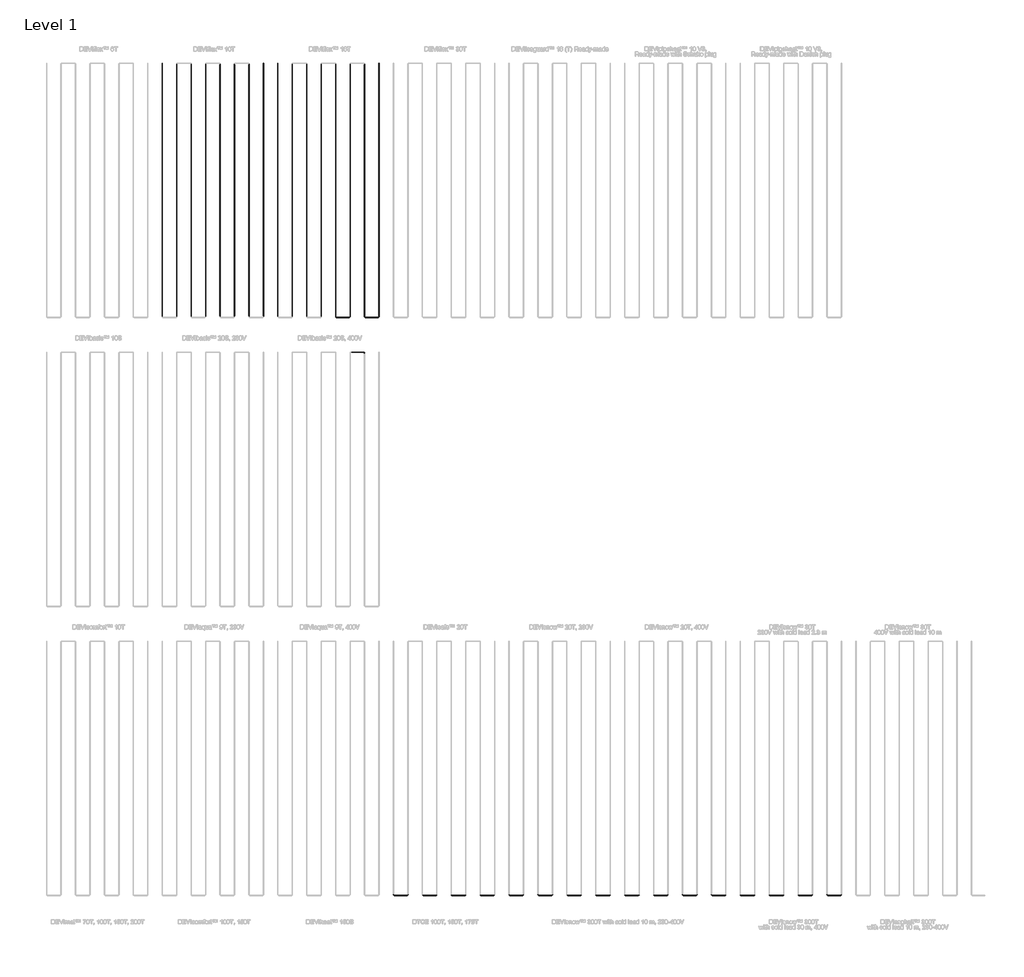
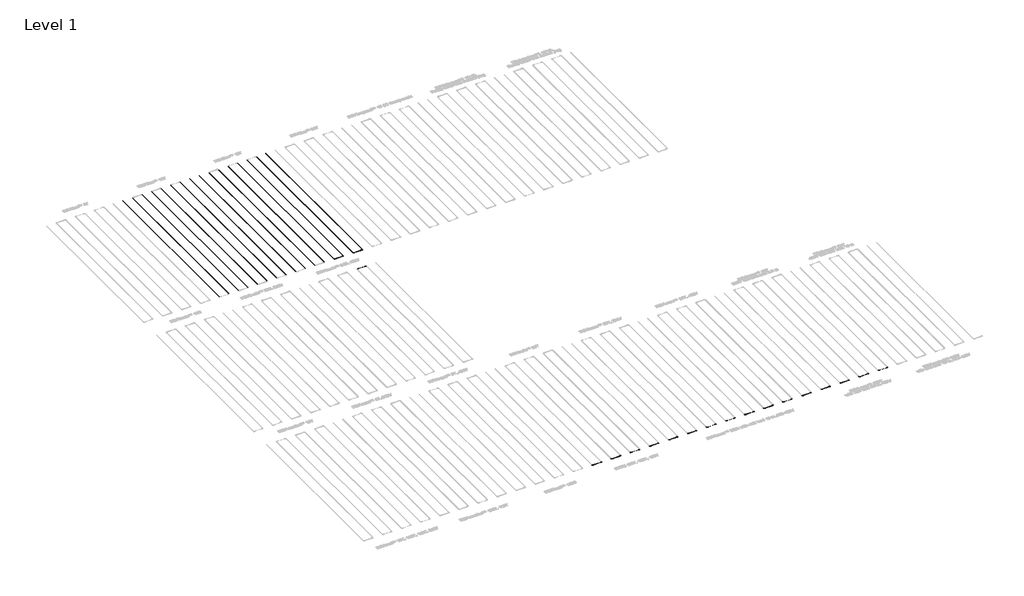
# One storey, part 4 of 26: 37 cable carrier fittings, 35 cable carrier segments.
"""IFC4 building model written with IfcOpenShell, lengths in millimetres."""

from ifc_helpers import new_model, si_unit, point, frame, frame_2d, origin, place, context, project, spatial, circle_curve, trimmed, segment, composite_curve, outline, extrude, transform, mapped, element, save
from components import cable_carrier_fitting_e4b1aeb6

model = new_model("IFC4")

# Units and contexts
model_context = context("Model", 3, world=origin())
ifc_project = project(units=[si_unit("LENGTHUNIT", "METRE", prefix="MILLI")], contexts=[model_context])

# Site, building, storey
site = spatial("IfcSite", under=ifc_project)
building = spatial("IfcBuilding", under=site)
storey = spatial("IfcBuildingStorey", under=building, Name="Level 1", Elevation=0.0)

# Cable carrier fittings
placement = place(None, origin())
cable_carrier_fitting_shape = cable_carrier_fitting_e4b1aeb6(model_context)
element("IfcCableCarrierFitting", 1, ObjectType="Danfoss Elbow : DEVIflex™ 18T", at=placement, inside=storey, context=model_context, shape_type="MappedRepresentation", body=[
    mapped(cable_carrier_fitting_shape, transform((-1587.3402445, -6738.7894079, -100.0), x_axis=(0.0, -1.0, 0.0), y_axis=(1.0, 0.0, 0.0), z_axis=(0.0, 0.0, 1.0))),
])
element("IfcCableCarrierFitting", 2, ObjectType="Danfoss Elbow : DEVIflex™ 18T", at=placement, inside=storey, context=model_context, shape_type="MappedRepresentation", body=[
    mapped(cable_carrier_fitting_shape, transform((-1087.3402445, -6738.7894079, -100.0), x_axis=(1.0, 0.0, 0.0), y_axis=(0.0, 1.0, 0.0), z_axis=(0.0, 0.0, 1.0))),
])
element("IfcCableCarrierFitting", 3, ObjectType="Danfoss Elbow : DEVIflex™ 18T", at=placement, inside=storey, context=model_context, shape_type="MappedRepresentation", body=[
    mapped(cable_carrier_fitting_shape, transform((-587.3402445, -6738.7894079, -100.0), x_axis=(0.0, -1.0, 0.0), y_axis=(1.0, 0.0, 0.0), z_axis=(0.0, 0.0, 1.0))),
])
element("IfcCableCarrierFitting", 4, ObjectType="Danfoss Elbow : DEVIflex™ 18T", at=placement, inside=storey, context=model_context, shape_type="MappedRepresentation", body=[
    mapped(cable_carrier_fitting_shape, transform((-87.3402445, -6738.7894079, -100.0), x_axis=(1.0, 0.0, 0.0), y_axis=(0.0, 1.0, 0.0), z_axis=(0.0, 0.0, 1.0))),
])
element("IfcCableCarrierFitting", 5, ObjectType="Danfoss Elbow : DEVIbasic™ 20S, 400V", at=placement, inside=storey, context=model_context, shape_type="MappedRepresentation", body=[
    mapped(cable_carrier_fitting_shape, transform((-587.3402445, -7938.7894079, -100.0), x_axis=(0.0, 1.0, 0.0), y_axis=(-1.0, 0.0, 0.0), z_axis=(0.0, 0.0, 1.0))),
])
element("IfcCableCarrierFitting", 6, ObjectType="Danfoss Elbow : DEVIsafe™ 20T", at=placement, inside=storey, context=model_context, shape_type="MappedRepresentation", body=[
    mapped(cable_carrier_fitting_shape, transform((412.6597555, -26738.7894079, -100.0), x_axis=(0.0, -1.0, 0.0), y_axis=(1.0, 0.0, 0.0), z_axis=(0.0, 0.0, 1.0))),
])
element("IfcCableCarrierFitting", 7, ObjectType="Danfoss Elbow : DEVIsafe™ 20T", at=placement, inside=storey, context=model_context, shape_type="MappedRepresentation", body=[
    mapped(cable_carrier_fitting_shape, transform((912.6597555, -26738.7894079, -100.0), x_axis=(1.0, 0.0, 0.0), y_axis=(0.0, 1.0, 0.0), z_axis=(0.0, 0.0, 1.0))),
])
element("IfcCableCarrierFitting", 8, ObjectType="Danfoss Elbow : DEVIsafe™ 20T", at=placement, inside=storey, context=model_context, shape_type="MappedRepresentation", body=[
    mapped(cable_carrier_fitting_shape, transform((1412.6597555, -26738.7894079, -100.0), x_axis=(0.0, -1.0, 0.0), y_axis=(1.0, 0.0, 0.0), z_axis=(0.0, 0.0, 1.0))),
])
element("IfcCableCarrierFitting", 9, ObjectType="Danfoss Elbow : DEVIsafe™ 20T", at=placement, inside=storey, context=model_context, shape_type="MappedRepresentation", body=[
    mapped(cable_carrier_fitting_shape, transform((1912.6597555, -26738.7894079, -100.0), x_axis=(1.0, 0.0, 0.0), y_axis=(0.0, 1.0, 0.0), z_axis=(0.0, 0.0, 1.0))),
])
element("IfcCableCarrierFitting", 10, ObjectType="Danfoss Elbow : DEVIsafe™ 20T", at=placement, inside=storey, context=model_context, shape_type="MappedRepresentation", body=[
    mapped(cable_carrier_fitting_shape, transform((2412.6597555, -26738.7894079, -100.0), x_axis=(0.0, -1.0, 0.0), y_axis=(1.0, 0.0, 0.0), z_axis=(0.0, 0.0, 1.0))),
])
element("IfcCableCarrierFitting", 11, ObjectType="Danfoss Elbow : DEVIsafe™ 20T", at=placement, inside=storey, context=model_context, shape_type="MappedRepresentation", body=[
    mapped(cable_carrier_fitting_shape, transform((2912.6597555, -26738.7894079, -100.0), x_axis=(1.0, 0.0, 0.0), y_axis=(0.0, 1.0, 0.0), z_axis=(0.0, 0.0, 1.0))),
])
element("IfcCableCarrierFitting", 12, ObjectType="Danfoss Elbow : DEVIsafe™ 20T", at=placement, inside=storey, context=model_context, shape_type="MappedRepresentation", body=[
    mapped(cable_carrier_fitting_shape, transform((3412.6597555, -26738.7894079, -100.0), x_axis=(0.0, -1.0, 0.0), y_axis=(1.0, 0.0, 0.0), z_axis=(0.0, 0.0, 1.0))),
])
element("IfcCableCarrierFitting", 13, ObjectType="Danfoss Elbow : DEVIsafe™ 20T", at=placement, inside=storey, context=model_context, shape_type="MappedRepresentation", body=[
    mapped(cable_carrier_fitting_shape, transform((3912.6597555, -26738.7894079, -100.0), x_axis=(1.0, 0.0, 0.0), y_axis=(0.0, 1.0, 0.0), z_axis=(0.0, 0.0, 1.0))),
])
element("IfcCableCarrierFitting", 14, ObjectType="Danfoss Elbow : DEVIsnow™ 20T, 230V", at=placement, inside=storey, context=model_context, shape_type="MappedRepresentation", body=[
    mapped(cable_carrier_fitting_shape, transform((4412.6597555, -26738.7894079, -100.0), x_axis=(0.0, -1.0, 0.0), y_axis=(1.0, 0.0, 0.0), z_axis=(0.0, 0.0, 1.0))),
])
element("IfcCableCarrierFitting", 15, ObjectType="Danfoss Elbow : DEVIsnow™ 20T, 230V", at=placement, inside=storey, context=model_context, shape_type="MappedRepresentation", body=[
    mapped(cable_carrier_fitting_shape, transform((4912.6597555, -26738.7894079, -100.0), x_axis=(1.0, 0.0, 0.0), y_axis=(0.0, 1.0, 0.0), z_axis=(0.0, 0.0, 1.0))),
])
element("IfcCableCarrierFitting", 16, ObjectType="Danfoss Elbow : DEVIsnow™ 20T, 230V", at=placement, inside=storey, context=model_context, shape_type="MappedRepresentation", body=[
    mapped(cable_carrier_fitting_shape, transform((5412.6597555, -26738.7894079, -100.0), x_axis=(0.0, -1.0, 0.0), y_axis=(1.0, 0.0, 0.0), z_axis=(0.0, 0.0, 1.0))),
])
element("IfcCableCarrierFitting", 17, ObjectType="Danfoss Elbow : DEVIsnow™ 20T, 230V", at=placement, inside=storey, context=model_context, shape_type="MappedRepresentation", body=[
    mapped(cable_carrier_fitting_shape, transform((6412.6597555, -26738.7894079, -100.0), x_axis=(0.0, -1.0, 0.0), y_axis=(1.0, 0.0, 0.0), z_axis=(0.0, 0.0, 1.0))),
])
element("IfcCableCarrierFitting", 18, ObjectType="Danfoss Elbow : DEVIsnow™ 20T, 230V", at=placement, inside=storey, context=model_context, shape_type="MappedRepresentation", body=[
    mapped(cable_carrier_fitting_shape, transform((6912.6597555, -26738.7894079, -100.0), x_axis=(1.0, 0.0, 0.0), y_axis=(0.0, 1.0, 0.0), z_axis=(0.0, 0.0, 1.0))),
])
element("IfcCableCarrierFitting", 19, ObjectType="Danfoss Elbow : DEVIsnow™ 20T, 230V", at=placement, inside=storey, context=model_context, shape_type="MappedRepresentation", body=[
    mapped(cable_carrier_fitting_shape, transform((7412.6597555, -26738.7894079, -100.0), x_axis=(0.0, -1.0, 0.0), y_axis=(1.0, 0.0, 0.0), z_axis=(0.0, 0.0, 1.0))),
])
element("IfcCableCarrierFitting", 20, ObjectType="Danfoss Elbow : DEVIsnow™ 20T, 230V", at=placement, inside=storey, context=model_context, shape_type="MappedRepresentation", body=[
    mapped(cable_carrier_fitting_shape, transform((7912.6597555, -26738.7894079, -100.0), x_axis=(1.0, 0.0, 0.0), y_axis=(0.0, 1.0, 0.0), z_axis=(0.0, 0.0, 1.0))),
])
element("IfcCableCarrierFitting", 21, ObjectType="Danfoss Elbow : DEVIsnow™ 20T, 230V", at=placement, inside=storey, context=model_context, shape_type="MappedRepresentation", body=[
    mapped(cable_carrier_fitting_shape, transform((5912.6597555, -26738.7894079, -100.0), x_axis=(1.0, 0.0, 0.0), y_axis=(0.0, 1.0, 0.0), z_axis=(0.0, 0.0, 1.0))),
])
element("IfcCableCarrierFitting", 22, ObjectType="Danfoss Elbow : DEVIsnow™ 20T, 400V", at=placement, inside=storey, context=model_context, shape_type="MappedRepresentation", body=[
    mapped(cable_carrier_fitting_shape, transform((8412.6597555, -26738.7894079, -100.0), x_axis=(0.0, -1.0, 0.0), y_axis=(1.0, 0.0, 0.0), z_axis=(0.0, 0.0, 1.0))),
])
element("IfcCableCarrierFitting", 23, ObjectType="Danfoss Elbow : DEVIsnow™ 20T, 400V", at=placement, inside=storey, context=model_context, shape_type="MappedRepresentation", body=[
    mapped(cable_carrier_fitting_shape, transform((8912.6597555, -26738.7894079, -100.0), x_axis=(1.0, 0.0, 0.0), y_axis=(0.0, 1.0, 0.0), z_axis=(0.0, 0.0, 1.0))),
])
element("IfcCableCarrierFitting", 24, ObjectType="Danfoss Elbow : DEVIsnow™ 20T, 400V", at=placement, inside=storey, context=model_context, shape_type="MappedRepresentation", body=[
    mapped(cable_carrier_fitting_shape, transform((9412.6597555, -26738.7894079, -100.0), x_axis=(0.0, -1.0, 0.0), y_axis=(1.0, 0.0, 0.0), z_axis=(0.0, 0.0, 1.0))),
])
element("IfcCableCarrierFitting", 25, ObjectType="Danfoss Elbow : DEVIsnow™ 20T, 400V", at=placement, inside=storey, context=model_context, shape_type="MappedRepresentation", body=[
    mapped(cable_carrier_fitting_shape, transform((9912.6597555, -26738.7894079, -100.0), x_axis=(1.0, 0.0, 0.0), y_axis=(0.0, 1.0, 0.0), z_axis=(0.0, 0.0, 1.0))),
])
element("IfcCableCarrierFitting", 26, ObjectType="Danfoss Elbow : DEVIsnow™ 20T, 400V", at=placement, inside=storey, context=model_context, shape_type="MappedRepresentation", body=[
    mapped(cable_carrier_fitting_shape, transform((10412.6597555, -26738.7894079, -100.0), x_axis=(0.0, -1.0, 0.0), y_axis=(1.0, 0.0, 0.0), z_axis=(0.0, 0.0, 1.0))),
])
element("IfcCableCarrierFitting", 27, ObjectType="Danfoss Elbow : DEVIsnow™ 20T, 400V", at=placement, inside=storey, context=model_context, shape_type="MappedRepresentation", body=[
    mapped(cable_carrier_fitting_shape, transform((10912.6597555, -26738.7894079, -100.0), x_axis=(1.0, 0.0, 0.0), y_axis=(0.0, 1.0, 0.0), z_axis=(0.0, 0.0, 1.0))),
])
element("IfcCableCarrierFitting", 28, ObjectType="Danfoss Elbow : DEVIsnow™ 20T, 400V", at=placement, inside=storey, context=model_context, shape_type="MappedRepresentation", body=[
    mapped(cable_carrier_fitting_shape, transform((11412.6597555, -26738.7894079, -100.0), x_axis=(0.0, -1.0, 0.0), y_axis=(1.0, 0.0, 0.0), z_axis=(0.0, 0.0, 1.0))),
])
element("IfcCableCarrierFitting", 29, ObjectType="Danfoss Elbow : DEVIsnow™ 20T, 400V", at=placement, inside=storey, context=model_context, shape_type="MappedRepresentation", body=[
    mapped(cable_carrier_fitting_shape, transform((11912.6597555, -26738.7894079, -100.0), x_axis=(1.0, 0.0, 0.0), y_axis=(0.0, 1.0, 0.0), z_axis=(0.0, 0.0, 1.0))),
])
element("IfcCableCarrierFitting", 30, ObjectType="Danfoss Elbow : DEVIsnow™ 30T, 230V with cold lead 2.3 m", at=placement, inside=storey, context=model_context, shape_type="MappedRepresentation", body=[
    mapped(cable_carrier_fitting_shape, transform((12412.6597555, -26738.7894079, -100.0), x_axis=(0.0, -1.0, 0.0), y_axis=(1.0, 0.0, 0.0), z_axis=(0.0, 0.0, 1.0))),
])
element("IfcCableCarrierFitting", 31, ObjectType="Danfoss Elbow : DEVIsnow™ 30T, 230V with cold lead 2.3 m", at=placement, inside=storey, context=model_context, shape_type="MappedRepresentation", body=[
    mapped(cable_carrier_fitting_shape, transform((12912.6597555, -26738.7894079, -100.0), x_axis=(1.0, 0.0, 0.0), y_axis=(0.0, 1.0, 0.0), z_axis=(0.0, 0.0, 1.0))),
])
element("IfcCableCarrierFitting", 32, ObjectType="Danfoss Elbow : DEVIsnow™ 30T, 230V with cold lead 2.3 m", at=placement, inside=storey, context=model_context, shape_type="MappedRepresentation", body=[
    mapped(cable_carrier_fitting_shape, transform((13412.6597555, -26738.7894079, -100.0), x_axis=(0.0, -1.0, 0.0), y_axis=(1.0, 0.0, 0.0), z_axis=(0.0, 0.0, 1.0))),
])
element("IfcCableCarrierFitting", 33, ObjectType="Danfoss Elbow : DEVIsnow™ 30T, 230V with cold lead 2.3 m", at=placement, inside=storey, context=model_context, shape_type="MappedRepresentation", body=[
    mapped(cable_carrier_fitting_shape, transform((13912.6597555, -26738.7894079, -100.0), x_axis=(1.0, 0.0, 0.0), y_axis=(0.0, 1.0, 0.0), z_axis=(0.0, 0.0, 1.0))),
])
element("IfcCableCarrierFitting", 34, ObjectType="Danfoss Elbow : DEVIsnow™ 30T, 230V with cold lead 2.3 m", at=placement, inside=storey, context=model_context, shape_type="MappedRepresentation", body=[
    mapped(cable_carrier_fitting_shape, transform((14412.6597555, -26738.7894079, -100.0), x_axis=(0.0, -1.0, 0.0), y_axis=(1.0, 0.0, 0.0), z_axis=(0.0, 0.0, 1.0))),
])
element("IfcCableCarrierFitting", 35, ObjectType="Danfoss Elbow : DEVIsnow™ 30T, 230V with cold lead 2.3 m", at=placement, inside=storey, context=model_context, shape_type="MappedRepresentation", body=[
    mapped(cable_carrier_fitting_shape, transform((14912.6597555, -26738.7894079, -100.0), x_axis=(1.0, 0.0, 0.0), y_axis=(0.0, 1.0, 0.0), z_axis=(0.0, 0.0, 1.0))),
])
element("IfcCableCarrierFitting", 36, ObjectType="Danfoss Elbow : DEVIsnow™ 30T, 230V with cold lead 2.3 m", at=placement, inside=storey, context=model_context, shape_type="MappedRepresentation", body=[
    mapped(cable_carrier_fitting_shape, transform((15412.6597555, -26738.7894079, -100.0), x_axis=(0.0, -1.0, 0.0), y_axis=(1.0, 0.0, 0.0), z_axis=(0.0, 0.0, 1.0))),
])
element("IfcCableCarrierFitting", 37, ObjectType="Danfoss Elbow : DEVIsnow™ 30T, 230V with cold lead 2.3 m", at=placement, inside=storey, context=model_context, shape_type="MappedRepresentation", body=[
    mapped(cable_carrier_fitting_shape, transform((15912.6597555, -26738.7894079, -100.0), x_axis=(1.0, 0.0, 0.0), y_axis=(0.0, 1.0, 0.0), z_axis=(0.0, 0.0, 1.0))),
])

# Cable carrier segments
element("IfcCableCarrierSegment", 38, ObjectType="DEVIflex™ 10T", at=placement, inside=storey, context=model_context, shape_type="SweptSolid", body=[
    extrude(outline(composite_curve([segment(trimmed(circle_curve(frame_2d((-100.0, -7587.3402445)), 3.45), [point((-100.0, -7590.7902445))], [point((-103.45, -7587.3402445))], False, "CARTESIAN"), True, "CONTINUOUS"), segment(trimmed(circle_curve(frame_2d((-100.0, -7587.3402445)), 3.45), [point((-103.45, -7587.3402445))], [point((-100.0, -7583.8902445))], False, "CARTESIAN"), True, "CONTINUOUS"), segment(trimmed(circle_curve(frame_2d((-100.0, -7587.3402445)), 3.45), [point((-100.0, -7583.8902445))], [point((-96.55, -7587.3402445))], False, "CARTESIAN"), True, "CONTINUOUS"), segment(trimmed(circle_curve(frame_2d((-100.0, -7587.3402445)), 3.45), [point((-96.55, -7587.3402445))], [point((-100.0, -7590.7902445))], False, "CARTESIAN"), True, "CONTINUOUS")], self_intersect=False)), frame((0.0, -6703.7894079, 0.0), z_axis=(0.0, 1.0, 0.0), x_axis=(0.0, 0.0, 1.0)), (0.0, 0.0, 1.0), 8765.0),
])
element("IfcCableCarrierSegment", 39, ObjectType="DEVIflex™ 10T", at=placement, inside=storey, context=model_context, shape_type="SweptSolid", body=[
    extrude(outline(composite_curve([segment(trimmed(circle_curve(frame_2d((-100.0, -7087.3402445)), 3.45), [point((-100.0, -7083.8902445))], [point((-96.55, -7087.3402445))], False, "CARTESIAN"), True, "CONTINUOUS"), segment(trimmed(circle_curve(frame_2d((-100.0, -7087.3402445)), 3.45), [point((-96.55, -7087.3402445))], [point((-100.0, -7090.7902445))], False, "CARTESIAN"), True, "CONTINUOUS"), segment(trimmed(circle_curve(frame_2d((-100.0, -7087.3402445)), 3.45), [point((-100.0, -7090.7902445))], [point((-103.45, -7087.3402445))], False, "CARTESIAN"), True, "CONTINUOUS"), segment(trimmed(circle_curve(frame_2d((-100.0, -7087.3402445)), 3.45), [point((-103.45, -7087.3402445))], [point((-100.0, -7083.8902445))], False, "CARTESIAN"), True, "CONTINUOUS")], self_intersect=False)), frame((0.0, -6703.7894079, 0.0), z_axis=(0.0, 1.0, 0.0), x_axis=(0.0, 0.0, 1.0)), (0.0, 0.0, 1.0), 8730.0),
])
element("IfcCableCarrierSegment", 40, ObjectType="DEVIflex™ 10T", at=placement, inside=storey, context=model_context, shape_type="SweptSolid", body=[
    extrude(outline(composite_curve([segment(trimmed(circle_curve(frame_2d((-100.0, -6587.3402445)), 3.45), [point((-100.0, -6590.7902445))], [point((-103.45, -6587.3402445))], False, "CARTESIAN"), True, "CONTINUOUS"), segment(trimmed(circle_curve(frame_2d((-100.0, -6587.3402445)), 3.45), [point((-103.45, -6587.3402445))], [point((-100.0, -6583.8902445))], False, "CARTESIAN"), True, "CONTINUOUS"), segment(trimmed(circle_curve(frame_2d((-100.0, -6587.3402445)), 3.45), [point((-100.0, -6583.8902445))], [point((-96.55, -6587.3402445))], False, "CARTESIAN"), True, "CONTINUOUS"), segment(trimmed(circle_curve(frame_2d((-100.0, -6587.3402445)), 3.45), [point((-96.55, -6587.3402445))], [point((-100.0, -6590.7902445))], False, "CARTESIAN"), True, "CONTINUOUS")], self_intersect=False)), frame((0.0, -6703.7894079, 0.0), z_axis=(0.0, 1.0, 0.0), x_axis=(0.0, 0.0, 1.0)), (0.0, 0.0, 1.0), 8730.0),
])
element("IfcCableCarrierSegment", 41, ObjectType="DEVIflex™ 10T", at=placement, inside=storey, context=model_context, shape_type="SweptSolid", body=[
    extrude(outline(composite_curve([segment(trimmed(circle_curve(frame_2d((-100.0, -6087.3402445)), 3.45), [point((-100.0, -6083.8902445))], [point((-96.55, -6087.3402445))], False, "CARTESIAN"), True, "CONTINUOUS"), segment(trimmed(circle_curve(frame_2d((-100.0, -6087.3402445)), 3.45), [point((-96.55, -6087.3402445))], [point((-100.0, -6090.7902445))], False, "CARTESIAN"), True, "CONTINUOUS"), segment(trimmed(circle_curve(frame_2d((-100.0, -6087.3402445)), 3.45), [point((-100.0, -6090.7902445))], [point((-103.45, -6087.3402445))], False, "CARTESIAN"), True, "CONTINUOUS"), segment(trimmed(circle_curve(frame_2d((-100.0, -6087.3402445)), 3.45), [point((-103.45, -6087.3402445))], [point((-100.0, -6083.8902445))], False, "CARTESIAN"), True, "CONTINUOUS")], self_intersect=False)), frame((0.0, -6703.7894079, 0.0), z_axis=(0.0, 1.0, 0.0), x_axis=(0.0, 0.0, 1.0)), (0.0, 0.0, 1.0), 8730.0),
])
element("IfcCableCarrierSegment", 42, ObjectType="DEVIflex™ 10T", at=placement, inside=storey, context=model_context, shape_type="SweptSolid", body=[
    extrude(outline(composite_curve([segment(trimmed(circle_curve(frame_2d((-100.0, -5587.3402445)), 3.45), [point((-100.0, -5590.7902445))], [point((-103.45, -5587.3402445))], False, "CARTESIAN"), True, "CONTINUOUS"), segment(trimmed(circle_curve(frame_2d((-100.0, -5587.3402445)), 3.45), [point((-103.45, -5587.3402445))], [point((-100.0, -5583.8902445))], False, "CARTESIAN"), True, "CONTINUOUS"), segment(trimmed(circle_curve(frame_2d((-100.0, -5587.3402445)), 3.45), [point((-100.0, -5583.8902445))], [point((-96.55, -5587.3402445))], False, "CARTESIAN"), True, "CONTINUOUS"), segment(trimmed(circle_curve(frame_2d((-100.0, -5587.3402445)), 3.45), [point((-96.55, -5587.3402445))], [point((-100.0, -5590.7902445))], False, "CARTESIAN"), True, "CONTINUOUS")], self_intersect=False)), frame((0.0, -6703.7894079, 0.0), z_axis=(0.0, 1.0, 0.0), x_axis=(0.0, 0.0, 1.0)), (0.0, 0.0, 1.0), 8730.0),
])
element("IfcCableCarrierSegment", 43, ObjectType="DEVIflex™ 10T", at=placement, inside=storey, context=model_context, shape_type="SweptSolid", body=[
    extrude(outline(composite_curve([segment(trimmed(circle_curve(frame_2d((-100.0, -5087.3402445)), 3.45), [point((-100.0, -5083.8902445))], [point((-96.55, -5087.3402445))], False, "CARTESIAN"), True, "CONTINUOUS"), segment(trimmed(circle_curve(frame_2d((-100.0, -5087.3402445)), 3.45), [point((-96.55, -5087.3402445))], [point((-100.0, -5090.7902445))], False, "CARTESIAN"), True, "CONTINUOUS"), segment(trimmed(circle_curve(frame_2d((-100.0, -5087.3402445)), 3.45), [point((-100.0, -5090.7902445))], [point((-103.45, -5087.3402445))], False, "CARTESIAN"), True, "CONTINUOUS"), segment(trimmed(circle_curve(frame_2d((-100.0, -5087.3402445)), 3.45), [point((-103.45, -5087.3402445))], [point((-100.0, -5083.8902445))], False, "CARTESIAN"), True, "CONTINUOUS")], self_intersect=False)), frame((0.0, -6703.7894079, 0.0), z_axis=(0.0, 1.0, 0.0), x_axis=(0.0, 0.0, 1.0)), (0.0, 0.0, 1.0), 8730.0),
])
element("IfcCableCarrierSegment", 44, ObjectType="DEVIflex™ 10T", at=placement, inside=storey, context=model_context, shape_type="SweptSolid", body=[
    extrude(outline(composite_curve([segment(trimmed(circle_curve(frame_2d((-100.0, -4587.3402445)), 3.45), [point((-100.0, -4590.7902445))], [point((-103.45, -4587.3402445))], False, "CARTESIAN"), True, "CONTINUOUS"), segment(trimmed(circle_curve(frame_2d((-100.0, -4587.3402445)), 3.45), [point((-103.45, -4587.3402445))], [point((-100.0, -4583.8902445))], False, "CARTESIAN"), True, "CONTINUOUS"), segment(trimmed(circle_curve(frame_2d((-100.0, -4587.3402445)), 3.45), [point((-100.0, -4583.8902445))], [point((-96.55, -4587.3402445))], False, "CARTESIAN"), True, "CONTINUOUS"), segment(trimmed(circle_curve(frame_2d((-100.0, -4587.3402445)), 3.45), [point((-96.55, -4587.3402445))], [point((-100.0, -4590.7902445))], False, "CARTESIAN"), True, "CONTINUOUS")], self_intersect=False)), frame((0.0, -6703.7894079, 0.0), z_axis=(0.0, 1.0, 0.0), x_axis=(0.0, 0.0, 1.0)), (0.0, 0.0, 1.0), 8730.0),
])
element("IfcCableCarrierSegment", 45, ObjectType="DEVIflex™ 10T", at=placement, inside=storey, context=model_context, shape_type="SweptSolid", body=[
    extrude(outline(composite_curve([segment(trimmed(circle_curve(frame_2d((-100.0, -4087.3402445)), 3.45), [point((-100.0, -4083.8902445))], [point((-96.55, -4087.3402445))], False, "CARTESIAN"), True, "CONTINUOUS"), segment(trimmed(circle_curve(frame_2d((-100.0, -4087.3402445)), 3.45), [point((-96.55, -4087.3402445))], [point((-100.0, -4090.7902445))], False, "CARTESIAN"), True, "CONTINUOUS"), segment(trimmed(circle_curve(frame_2d((-100.0, -4087.3402445)), 3.45), [point((-100.0, -4090.7902445))], [point((-103.45, -4087.3402445))], False, "CARTESIAN"), True, "CONTINUOUS"), segment(trimmed(circle_curve(frame_2d((-100.0, -4087.3402445)), 3.45), [point((-103.45, -4087.3402445))], [point((-100.0, -4083.8902445))], False, "CARTESIAN"), True, "CONTINUOUS")], self_intersect=False)), frame((0.0, -6703.7894079, 0.0), z_axis=(0.0, 1.0, 0.0), x_axis=(0.0, 0.0, 1.0)), (0.0, 0.0, 1.0), 8765.0),
])
element("IfcCableCarrierSegment", 46, ObjectType="DEVIflex™ 18T", at=placement, inside=storey, context=model_context, shape_type="SweptSolid", body=[
    extrude(outline(composite_curve([segment(trimmed(circle_curve(frame_2d((-100.0, -3587.3402445)), 3.45), [point((-100.0, -3590.7902445))], [point((-103.45, -3587.3402445))], False, "CARTESIAN"), True, "CONTINUOUS"), segment(trimmed(circle_curve(frame_2d((-100.0, -3587.3402445)), 3.45), [point((-103.45, -3587.3402445))], [point((-100.0, -3583.8902445))], False, "CARTESIAN"), True, "CONTINUOUS"), segment(trimmed(circle_curve(frame_2d((-100.0, -3587.3402445)), 3.45), [point((-100.0, -3583.8902445))], [point((-96.55, -3587.3402445))], False, "CARTESIAN"), True, "CONTINUOUS"), segment(trimmed(circle_curve(frame_2d((-100.0, -3587.3402445)), 3.45), [point((-96.55, -3587.3402445))], [point((-100.0, -3590.7902445))], False, "CARTESIAN"), True, "CONTINUOUS")], self_intersect=False)), frame((0.0, -6703.7894079, 0.0), z_axis=(0.0, 1.0, 0.0), x_axis=(0.0, 0.0, 1.0)), (0.0, 0.0, 1.0), 8765.0),
])
element("IfcCableCarrierSegment", 47, ObjectType="DEVIflex™ 18T", at=placement, inside=storey, context=model_context, shape_type="SweptSolid", body=[
    extrude(outline(composite_curve([segment(trimmed(circle_curve(frame_2d((-100.0, -3087.3402445)), 3.45), [point((-100.0, -3083.8902445))], [point((-96.55, -3087.3402445))], False, "CARTESIAN"), True, "CONTINUOUS"), segment(trimmed(circle_curve(frame_2d((-100.0, -3087.3402445)), 3.45), [point((-96.55, -3087.3402445))], [point((-100.0, -3090.7902445))], False, "CARTESIAN"), True, "CONTINUOUS"), segment(trimmed(circle_curve(frame_2d((-100.0, -3087.3402445)), 3.45), [point((-100.0, -3090.7902445))], [point((-103.45, -3087.3402445))], False, "CARTESIAN"), True, "CONTINUOUS"), segment(trimmed(circle_curve(frame_2d((-100.0, -3087.3402445)), 3.45), [point((-103.45, -3087.3402445))], [point((-100.0, -3083.8902445))], False, "CARTESIAN"), True, "CONTINUOUS")], self_intersect=False)), frame((0.0, -6703.7894079, 0.0), z_axis=(0.0, 1.0, 0.0), x_axis=(0.0, 0.0, 1.0)), (0.0, 0.0, 1.0), 8730.0),
])
element("IfcCableCarrierSegment", 48, ObjectType="DEVIflex™ 18T", at=placement, inside=storey, context=model_context, shape_type="SweptSolid", body=[
    extrude(outline(composite_curve([segment(trimmed(circle_curve(frame_2d((-100.0, -2587.3402445)), 3.45), [point((-100.0, -2590.7902445))], [point((-103.45, -2587.3402445))], False, "CARTESIAN"), True, "CONTINUOUS"), segment(trimmed(circle_curve(frame_2d((-100.0, -2587.3402445)), 3.45), [point((-103.45, -2587.3402445))], [point((-100.0, -2583.8902445))], False, "CARTESIAN"), True, "CONTINUOUS"), segment(trimmed(circle_curve(frame_2d((-100.0, -2587.3402445)), 3.45), [point((-100.0, -2583.8902445))], [point((-96.55, -2587.3402445))], False, "CARTESIAN"), True, "CONTINUOUS"), segment(trimmed(circle_curve(frame_2d((-100.0, -2587.3402445)), 3.45), [point((-96.55, -2587.3402445))], [point((-100.0, -2590.7902445))], False, "CARTESIAN"), True, "CONTINUOUS")], self_intersect=False)), frame((0.0, -6703.7894079, 0.0), z_axis=(0.0, 1.0, 0.0), x_axis=(0.0, 0.0, 1.0)), (0.0, 0.0, 1.0), 8730.0),
])
element("IfcCableCarrierSegment", 49, ObjectType="DEVIflex™ 18T", at=placement, inside=storey, context=model_context, shape_type="SweptSolid", body=[
    extrude(outline(composite_curve([segment(trimmed(circle_curve(frame_2d((-100.0, -2087.3402445)), 3.45), [point((-100.0, -2083.8902445))], [point((-96.55, -2087.3402445))], False, "CARTESIAN"), True, "CONTINUOUS"), segment(trimmed(circle_curve(frame_2d((-100.0, -2087.3402445)), 3.45), [point((-96.55, -2087.3402445))], [point((-100.0, -2090.7902445))], False, "CARTESIAN"), True, "CONTINUOUS"), segment(trimmed(circle_curve(frame_2d((-100.0, -2087.3402445)), 3.45), [point((-100.0, -2090.7902445))], [point((-103.45, -2087.3402445))], False, "CARTESIAN"), True, "CONTINUOUS"), segment(trimmed(circle_curve(frame_2d((-100.0, -2087.3402445)), 3.45), [point((-103.45, -2087.3402445))], [point((-100.0, -2083.8902445))], False, "CARTESIAN"), True, "CONTINUOUS")], self_intersect=False)), frame((0.0, -6703.7894079, 0.0), z_axis=(0.0, 1.0, 0.0), x_axis=(0.0, 0.0, 1.0)), (0.0, 0.0, 1.0), 8730.0),
])
element("IfcCableCarrierSegment", 50, ObjectType="DEVIflex™ 18T", at=placement, inside=storey, context=model_context, shape_type="SweptSolid", body=[
    extrude(outline(composite_curve([segment(trimmed(circle_curve(frame_2d((-100.0, -1587.3402445)), 3.45), [point((-100.0, -1590.7902445))], [point((-103.45, -1587.3402445))], False, "CARTESIAN"), True, "CONTINUOUS"), segment(trimmed(circle_curve(frame_2d((-100.0, -1587.3402445)), 3.45), [point((-103.45, -1587.3402445))], [point((-100.0, -1583.8902445))], False, "CARTESIAN"), True, "CONTINUOUS"), segment(trimmed(circle_curve(frame_2d((-100.0, -1587.3402445)), 3.45), [point((-100.0, -1583.8902445))], [point((-96.55, -1587.3402445))], False, "CARTESIAN"), True, "CONTINUOUS"), segment(trimmed(circle_curve(frame_2d((-100.0, -1587.3402445)), 3.45), [point((-96.55, -1587.3402445))], [point((-100.0, -1590.7902445))], False, "CARTESIAN"), True, "CONTINUOUS")], self_intersect=False)), frame((0.0, -6703.7894079, 0.0), z_axis=(0.0, 1.0, 0.0), x_axis=(0.0, 0.0, 1.0)), (0.0, 0.0, 1.0), 8730.0),
])
element("IfcCableCarrierSegment", 51, ObjectType="DEVIflex™ 18T", at=placement, inside=storey, context=model_context, shape_type="SweptSolid", body=[
    extrude(outline(composite_curve([segment(trimmed(circle_curve(frame_2d((-6738.7894079, -100.0)), 3.45), [point((-6742.2394079, -100.0))], [point((-6738.7894079, -96.55))], False, "CARTESIAN"), True, "CONTINUOUS"), segment(trimmed(circle_curve(frame_2d((-6738.7894079, -100.0)), 3.45), [point((-6738.7894079, -96.55))], [point((-6735.3394079, -100.0))], False, "CARTESIAN"), True, "CONTINUOUS"), segment(trimmed(circle_curve(frame_2d((-6738.7894079, -100.0)), 3.45), [point((-6735.3394079, -100.0))], [point((-6738.7894079, -103.45))], False, "CARTESIAN"), True, "CONTINUOUS"), segment(trimmed(circle_curve(frame_2d((-6738.7894079, -100.0)), 3.45), [point((-6738.7894079, -103.45))], [point((-6742.2394079, -100.0))], False, "CARTESIAN"), True, "CONTINUOUS")], self_intersect=False)), frame((-1552.3402445, 0.0, 0.0), z_axis=(1.0, 0.0, 0.0), x_axis=(0.0, 1.0, 0.0)), (0.0, 0.0, 1.0), 430.0),
])
element("IfcCableCarrierSegment", 52, ObjectType="DEVIflex™ 18T", at=placement, inside=storey, context=model_context, shape_type="SweptSolid", body=[
    extrude(outline(composite_curve([segment(trimmed(circle_curve(frame_2d((-100.0, -1087.3402445)), 3.45), [point((-100.0, -1083.8902445))], [point((-96.55, -1087.3402445))], False, "CARTESIAN"), True, "CONTINUOUS"), segment(trimmed(circle_curve(frame_2d((-100.0, -1087.3402445)), 3.45), [point((-96.55, -1087.3402445))], [point((-100.0, -1090.7902445))], False, "CARTESIAN"), True, "CONTINUOUS"), segment(trimmed(circle_curve(frame_2d((-100.0, -1087.3402445)), 3.45), [point((-100.0, -1090.7902445))], [point((-103.45, -1087.3402445))], False, "CARTESIAN"), True, "CONTINUOUS"), segment(trimmed(circle_curve(frame_2d((-100.0, -1087.3402445)), 3.45), [point((-103.45, -1087.3402445))], [point((-100.0, -1083.8902445))], False, "CARTESIAN"), True, "CONTINUOUS")], self_intersect=False)), frame((0.0, -6703.7894079, 0.0), z_axis=(0.0, 1.0, 0.0), x_axis=(0.0, 0.0, 1.0)), (0.0, 0.0, 1.0), 8730.0),
])
element("IfcCableCarrierSegment", 53, ObjectType="DEVIflex™ 18T", at=placement, inside=storey, context=model_context, shape_type="SweptSolid", body=[
    extrude(outline(composite_curve([segment(trimmed(circle_curve(frame_2d((-100.0, -587.3402445)), 3.45), [point((-100.0, -590.7902445))], [point((-103.45, -587.3402445))], False, "CARTESIAN"), True, "CONTINUOUS"), segment(trimmed(circle_curve(frame_2d((-100.0, -587.3402445)), 3.45), [point((-103.45, -587.3402445))], [point((-100.0, -583.8902445))], False, "CARTESIAN"), True, "CONTINUOUS"), segment(trimmed(circle_curve(frame_2d((-100.0, -587.3402445)), 3.45), [point((-100.0, -583.8902445))], [point((-96.55, -587.3402445))], False, "CARTESIAN"), True, "CONTINUOUS"), segment(trimmed(circle_curve(frame_2d((-100.0, -587.3402445)), 3.45), [point((-96.55, -587.3402445))], [point((-100.0, -590.7902445))], False, "CARTESIAN"), True, "CONTINUOUS")], self_intersect=False)), frame((0.0, -6703.7894079, 0.0), z_axis=(0.0, 1.0, 0.0), x_axis=(0.0, 0.0, 1.0)), (0.0, 0.0, 1.0), 8730.0),
])
element("IfcCableCarrierSegment", 54, ObjectType="DEVIflex™ 18T", at=placement, inside=storey, context=model_context, shape_type="SweptSolid", body=[
    extrude(outline(composite_curve([segment(trimmed(circle_curve(frame_2d((-6738.7894079, -100.0)), 3.45), [point((-6742.2394079, -100.0))], [point((-6738.7894079, -96.55))], False, "CARTESIAN"), True, "CONTINUOUS"), segment(trimmed(circle_curve(frame_2d((-6738.7894079, -100.0)), 3.45), [point((-6738.7894079, -96.55))], [point((-6735.3394079, -100.0))], False, "CARTESIAN"), True, "CONTINUOUS"), segment(trimmed(circle_curve(frame_2d((-6738.7894079, -100.0)), 3.45), [point((-6735.3394079, -100.0))], [point((-6738.7894079, -103.45))], False, "CARTESIAN"), True, "CONTINUOUS"), segment(trimmed(circle_curve(frame_2d((-6738.7894079, -100.0)), 3.45), [point((-6738.7894079, -103.45))], [point((-6742.2394079, -100.0))], False, "CARTESIAN"), True, "CONTINUOUS")], self_intersect=False)), frame((-552.3402445, 0.0, 0.0), z_axis=(1.0, 0.0, 0.0), x_axis=(0.0, 1.0, 0.0)), (0.0, 0.0, 1.0), 430.0),
])
element("IfcCableCarrierSegment", 55, ObjectType="DEVIflex™ 18T", at=placement, inside=storey, context=model_context, shape_type="SweptSolid", body=[
    extrude(outline(composite_curve([segment(trimmed(circle_curve(frame_2d((-100.0, -87.3402445)), 3.45), [point((-100.0, -83.8902445))], [point((-96.55, -87.3402445))], False, "CARTESIAN"), True, "CONTINUOUS"), segment(trimmed(circle_curve(frame_2d((-100.0, -87.3402445)), 3.45), [point((-96.55, -87.3402445))], [point((-100.0, -90.7902445))], False, "CARTESIAN"), True, "CONTINUOUS"), segment(trimmed(circle_curve(frame_2d((-100.0, -87.3402445)), 3.45), [point((-100.0, -90.7902445))], [point((-103.45, -87.3402445))], False, "CARTESIAN"), True, "CONTINUOUS"), segment(trimmed(circle_curve(frame_2d((-100.0, -87.3402445)), 3.45), [point((-103.45, -87.3402445))], [point((-100.0, -83.8902445))], False, "CARTESIAN"), True, "CONTINUOUS")], self_intersect=False)), frame((0.0, -6703.7894079, 0.0), z_axis=(0.0, 1.0, 0.0), x_axis=(0.0, 0.0, 1.0)), (0.0, 0.0, 1.0), 8765.0),
])
element("IfcCableCarrierSegment", 56, ObjectType="DEVIbasic™ 20S, 400V", at=placement, inside=storey, context=model_context, shape_type="SweptSolid", body=[
    extrude(outline(composite_curve([segment(trimmed(circle_curve(frame_2d((-7938.7894079, -100.0)), 3.45), [point((-7942.2394079, -100.0))], [point((-7938.7894079, -96.55))], False, "CARTESIAN"), True, "CONTINUOUS"), segment(trimmed(circle_curve(frame_2d((-7938.7894079, -100.0)), 3.45), [point((-7938.7894079, -96.55))], [point((-7935.3394079, -100.0))], False, "CARTESIAN"), True, "CONTINUOUS"), segment(trimmed(circle_curve(frame_2d((-7938.7894079, -100.0)), 3.45), [point((-7935.3394079, -100.0))], [point((-7938.7894079, -103.45))], False, "CARTESIAN"), True, "CONTINUOUS"), segment(trimmed(circle_curve(frame_2d((-7938.7894079, -100.0)), 3.45), [point((-7938.7894079, -103.45))], [point((-7942.2394079, -100.0))], False, "CARTESIAN"), True, "CONTINUOUS")], self_intersect=False)), frame((-1052.3402445, 0.0, 0.0), z_axis=(1.0, 0.0, 0.0), x_axis=(0.0, 1.0, 0.0)), (0.0, 0.0, 1.0), 430.0),
])
element("IfcCableCarrierSegment", 57, ObjectType="DEVIsafe™ 20T", at=placement, inside=storey, context=model_context, shape_type="SweptSolid", body=[
    extrude(outline(composite_curve([segment(trimmed(circle_curve(frame_2d((-26738.7894079, -100.0)), 3.45), [point((-26742.2394079, -100.0))], [point((-26738.7894079, -96.55))], False, "CARTESIAN"), True, "CONTINUOUS"), segment(trimmed(circle_curve(frame_2d((-26738.7894079, -100.0)), 3.45), [point((-26738.7894079, -96.55))], [point((-26735.3394079, -100.0))], False, "CARTESIAN"), True, "CONTINUOUS"), segment(trimmed(circle_curve(frame_2d((-26738.7894079, -100.0)), 3.45), [point((-26735.3394079, -100.0))], [point((-26738.7894079, -103.45))], False, "CARTESIAN"), True, "CONTINUOUS"), segment(trimmed(circle_curve(frame_2d((-26738.7894079, -100.0)), 3.45), [point((-26738.7894079, -103.45))], [point((-26742.2394079, -100.0))], False, "CARTESIAN"), True, "CONTINUOUS")], self_intersect=False)), frame((447.6597555, 0.0, 0.0), z_axis=(1.0, 0.0, 0.0), x_axis=(0.0, 1.0, 0.0)), (0.0, 0.0, 1.0), 430.0),
])
element("IfcCableCarrierSegment", 58, ObjectType="DEVIsafe™ 20T", at=placement, inside=storey, context=model_context, shape_type="SweptSolid", body=[
    extrude(outline(composite_curve([segment(trimmed(circle_curve(frame_2d((-26738.7894079, -100.0)), 3.45), [point((-26742.2394079, -100.0))], [point((-26738.7894079, -96.55))], False, "CARTESIAN"), True, "CONTINUOUS"), segment(trimmed(circle_curve(frame_2d((-26738.7894079, -100.0)), 3.45), [point((-26738.7894079, -96.55))], [point((-26735.3394079, -100.0))], False, "CARTESIAN"), True, "CONTINUOUS"), segment(trimmed(circle_curve(frame_2d((-26738.7894079, -100.0)), 3.45), [point((-26735.3394079, -100.0))], [point((-26738.7894079, -103.45))], False, "CARTESIAN"), True, "CONTINUOUS"), segment(trimmed(circle_curve(frame_2d((-26738.7894079, -100.0)), 3.45), [point((-26738.7894079, -103.45))], [point((-26742.2394079, -100.0))], False, "CARTESIAN"), True, "CONTINUOUS")], self_intersect=False)), frame((1447.6597555, 0.0, 0.0), z_axis=(1.0, 0.0, 0.0), x_axis=(0.0, 1.0, 0.0)), (0.0, 0.0, 1.0), 430.0),
])
element("IfcCableCarrierSegment", 59, ObjectType="DEVIsafe™ 20T", at=placement, inside=storey, context=model_context, shape_type="SweptSolid", body=[
    extrude(outline(composite_curve([segment(trimmed(circle_curve(frame_2d((-26738.7894079, -100.0)), 3.45), [point((-26742.2394079, -100.0))], [point((-26738.7894079, -96.55))], False, "CARTESIAN"), True, "CONTINUOUS"), segment(trimmed(circle_curve(frame_2d((-26738.7894079, -100.0)), 3.45), [point((-26738.7894079, -96.55))], [point((-26735.3394079, -100.0))], False, "CARTESIAN"), True, "CONTINUOUS"), segment(trimmed(circle_curve(frame_2d((-26738.7894079, -100.0)), 3.45), [point((-26735.3394079, -100.0))], [point((-26738.7894079, -103.45))], False, "CARTESIAN"), True, "CONTINUOUS"), segment(trimmed(circle_curve(frame_2d((-26738.7894079, -100.0)), 3.45), [point((-26738.7894079, -103.45))], [point((-26742.2394079, -100.0))], False, "CARTESIAN"), True, "CONTINUOUS")], self_intersect=False)), frame((2447.6597555, 0.0, 0.0), z_axis=(1.0, 0.0, 0.0), x_axis=(0.0, 1.0, 0.0)), (0.0, 0.0, 1.0), 430.0),
])
element("IfcCableCarrierSegment", 60, ObjectType="DEVIsafe™ 20T", at=placement, inside=storey, context=model_context, shape_type="SweptSolid", body=[
    extrude(outline(composite_curve([segment(trimmed(circle_curve(frame_2d((-26738.7894079, -100.0)), 3.45), [point((-26742.2394079, -100.0))], [point((-26738.7894079, -96.55))], False, "CARTESIAN"), True, "CONTINUOUS"), segment(trimmed(circle_curve(frame_2d((-26738.7894079, -100.0)), 3.45), [point((-26738.7894079, -96.55))], [point((-26735.3394079, -100.0))], False, "CARTESIAN"), True, "CONTINUOUS"), segment(trimmed(circle_curve(frame_2d((-26738.7894079, -100.0)), 3.45), [point((-26735.3394079, -100.0))], [point((-26738.7894079, -103.45))], False, "CARTESIAN"), True, "CONTINUOUS"), segment(trimmed(circle_curve(frame_2d((-26738.7894079, -100.0)), 3.45), [point((-26738.7894079, -103.45))], [point((-26742.2394079, -100.0))], False, "CARTESIAN"), True, "CONTINUOUS")], self_intersect=False)), frame((3447.6597555, 0.0, 0.0), z_axis=(1.0, 0.0, 0.0), x_axis=(0.0, 1.0, 0.0)), (0.0, 0.0, 1.0), 430.0),
])
element("IfcCableCarrierSegment", 61, ObjectType="DEVIsnow™ 20T, 230V", at=placement, inside=storey, context=model_context, shape_type="SweptSolid", body=[
    extrude(outline(composite_curve([segment(trimmed(circle_curve(frame_2d((-26738.7894079, -100.0)), 3.45), [point((-26742.2394079, -100.0))], [point((-26738.7894079, -96.55))], False, "CARTESIAN"), True, "CONTINUOUS"), segment(trimmed(circle_curve(frame_2d((-26738.7894079, -100.0)), 3.45), [point((-26738.7894079, -96.55))], [point((-26735.3394079, -100.0))], False, "CARTESIAN"), True, "CONTINUOUS"), segment(trimmed(circle_curve(frame_2d((-26738.7894079, -100.0)), 3.45), [point((-26735.3394079, -100.0))], [point((-26738.7894079, -103.45))], False, "CARTESIAN"), True, "CONTINUOUS"), segment(trimmed(circle_curve(frame_2d((-26738.7894079, -100.0)), 3.45), [point((-26738.7894079, -103.45))], [point((-26742.2394079, -100.0))], False, "CARTESIAN"), True, "CONTINUOUS")], self_intersect=False)), frame((4447.6597555, 0.0, 0.0), z_axis=(1.0, 0.0, 0.0), x_axis=(0.0, 1.0, 0.0)), (0.0, 0.0, 1.0), 430.0),
])
element("IfcCableCarrierSegment", 62, ObjectType="DEVIsnow™ 20T, 230V", at=placement, inside=storey, context=model_context, shape_type="SweptSolid", body=[
    extrude(outline(composite_curve([segment(trimmed(circle_curve(frame_2d((-26738.7894079, -100.0)), 3.45), [point((-26742.2394079, -100.0))], [point((-26738.7894079, -96.55))], False, "CARTESIAN"), True, "CONTINUOUS"), segment(trimmed(circle_curve(frame_2d((-26738.7894079, -100.0)), 3.45), [point((-26738.7894079, -96.55))], [point((-26735.3394079, -100.0))], False, "CARTESIAN"), True, "CONTINUOUS"), segment(trimmed(circle_curve(frame_2d((-26738.7894079, -100.0)), 3.45), [point((-26735.3394079, -100.0))], [point((-26738.7894079, -103.45))], False, "CARTESIAN"), True, "CONTINUOUS"), segment(trimmed(circle_curve(frame_2d((-26738.7894079, -100.0)), 3.45), [point((-26738.7894079, -103.45))], [point((-26742.2394079, -100.0))], False, "CARTESIAN"), True, "CONTINUOUS")], self_intersect=False)), frame((5447.6597555, 0.0, 0.0), z_axis=(1.0, 0.0, 0.0), x_axis=(0.0, 1.0, 0.0)), (0.0, 0.0, 1.0), 430.0),
])
element("IfcCableCarrierSegment", 63, ObjectType="DEVIsnow™ 20T, 230V", at=placement, inside=storey, context=model_context, shape_type="SweptSolid", body=[
    extrude(outline(composite_curve([segment(trimmed(circle_curve(frame_2d((-26738.7894079, -100.0)), 3.45), [point((-26742.2394079, -100.0))], [point((-26738.7894079, -96.55))], False, "CARTESIAN"), True, "CONTINUOUS"), segment(trimmed(circle_curve(frame_2d((-26738.7894079, -100.0)), 3.45), [point((-26738.7894079, -96.55))], [point((-26735.3394079, -100.0))], False, "CARTESIAN"), True, "CONTINUOUS"), segment(trimmed(circle_curve(frame_2d((-26738.7894079, -100.0)), 3.45), [point((-26735.3394079, -100.0))], [point((-26738.7894079, -103.45))], False, "CARTESIAN"), True, "CONTINUOUS"), segment(trimmed(circle_curve(frame_2d((-26738.7894079, -100.0)), 3.45), [point((-26738.7894079, -103.45))], [point((-26742.2394079, -100.0))], False, "CARTESIAN"), True, "CONTINUOUS")], self_intersect=False)), frame((6447.6597555, 0.0, 0.0), z_axis=(1.0, 0.0, 0.0), x_axis=(0.0, 1.0, 0.0)), (0.0, 0.0, 1.0), 430.0),
])
element("IfcCableCarrierSegment", 64, ObjectType="DEVIsnow™ 20T, 230V", at=placement, inside=storey, context=model_context, shape_type="SweptSolid", body=[
    extrude(outline(composite_curve([segment(trimmed(circle_curve(frame_2d((-26738.7894079, -100.0)), 3.45), [point((-26742.2394079, -100.0))], [point((-26738.7894079, -96.55))], False, "CARTESIAN"), True, "CONTINUOUS"), segment(trimmed(circle_curve(frame_2d((-26738.7894079, -100.0)), 3.45), [point((-26738.7894079, -96.55))], [point((-26735.3394079, -100.0))], False, "CARTESIAN"), True, "CONTINUOUS"), segment(trimmed(circle_curve(frame_2d((-26738.7894079, -100.0)), 3.45), [point((-26735.3394079, -100.0))], [point((-26738.7894079, -103.45))], False, "CARTESIAN"), True, "CONTINUOUS"), segment(trimmed(circle_curve(frame_2d((-26738.7894079, -100.0)), 3.45), [point((-26738.7894079, -103.45))], [point((-26742.2394079, -100.0))], False, "CARTESIAN"), True, "CONTINUOUS")], self_intersect=False)), frame((7447.6597555, 0.0, 0.0), z_axis=(1.0, 0.0, 0.0), x_axis=(0.0, 1.0, 0.0)), (0.0, 0.0, 1.0), 430.0),
])
element("IfcCableCarrierSegment", 65, ObjectType="DEVIsnow™ 20T, 400V", at=placement, inside=storey, context=model_context, shape_type="SweptSolid", body=[
    extrude(outline(composite_curve([segment(trimmed(circle_curve(frame_2d((-26738.7894079, -100.0)), 3.45), [point((-26742.2394079, -100.0))], [point((-26738.7894079, -96.55))], False, "CARTESIAN"), True, "CONTINUOUS"), segment(trimmed(circle_curve(frame_2d((-26738.7894079, -100.0)), 3.45), [point((-26738.7894079, -96.55))], [point((-26735.3394079, -100.0))], False, "CARTESIAN"), True, "CONTINUOUS"), segment(trimmed(circle_curve(frame_2d((-26738.7894079, -100.0)), 3.45), [point((-26735.3394079, -100.0))], [point((-26738.7894079, -103.45))], False, "CARTESIAN"), True, "CONTINUOUS"), segment(trimmed(circle_curve(frame_2d((-26738.7894079, -100.0)), 3.45), [point((-26738.7894079, -103.45))], [point((-26742.2394079, -100.0))], False, "CARTESIAN"), True, "CONTINUOUS")], self_intersect=False)), frame((8447.6597555, 0.0, 0.0), z_axis=(1.0, 0.0, 0.0), x_axis=(0.0, 1.0, 0.0)), (0.0, 0.0, 1.0), 430.0),
])
element("IfcCableCarrierSegment", 66, ObjectType="DEVIsnow™ 20T, 400V", at=placement, inside=storey, context=model_context, shape_type="SweptSolid", body=[
    extrude(outline(composite_curve([segment(trimmed(circle_curve(frame_2d((-26738.7894079, -100.0)), 3.45), [point((-26742.2394079, -100.0))], [point((-26738.7894079, -96.55))], False, "CARTESIAN"), True, "CONTINUOUS"), segment(trimmed(circle_curve(frame_2d((-26738.7894079, -100.0)), 3.45), [point((-26738.7894079, -96.55))], [point((-26735.3394079, -100.0))], False, "CARTESIAN"), True, "CONTINUOUS"), segment(trimmed(circle_curve(frame_2d((-26738.7894079, -100.0)), 3.45), [point((-26735.3394079, -100.0))], [point((-26738.7894079, -103.45))], False, "CARTESIAN"), True, "CONTINUOUS"), segment(trimmed(circle_curve(frame_2d((-26738.7894079, -100.0)), 3.45), [point((-26738.7894079, -103.45))], [point((-26742.2394079, -100.0))], False, "CARTESIAN"), True, "CONTINUOUS")], self_intersect=False)), frame((9447.6597555, 0.0, 0.0), z_axis=(1.0, 0.0, 0.0), x_axis=(0.0, 1.0, 0.0)), (0.0, 0.0, 1.0), 430.0),
])
element("IfcCableCarrierSegment", 67, ObjectType="DEVIsnow™ 20T, 400V", at=placement, inside=storey, context=model_context, shape_type="SweptSolid", body=[
    extrude(outline(composite_curve([segment(trimmed(circle_curve(frame_2d((-26738.7894079, -100.0)), 3.45), [point((-26742.2394079, -100.0))], [point((-26738.7894079, -96.55))], False, "CARTESIAN"), True, "CONTINUOUS"), segment(trimmed(circle_curve(frame_2d((-26738.7894079, -100.0)), 3.45), [point((-26738.7894079, -96.55))], [point((-26735.3394079, -100.0))], False, "CARTESIAN"), True, "CONTINUOUS"), segment(trimmed(circle_curve(frame_2d((-26738.7894079, -100.0)), 3.45), [point((-26735.3394079, -100.0))], [point((-26738.7894079, -103.45))], False, "CARTESIAN"), True, "CONTINUOUS"), segment(trimmed(circle_curve(frame_2d((-26738.7894079, -100.0)), 3.45), [point((-26738.7894079, -103.45))], [point((-26742.2394079, -100.0))], False, "CARTESIAN"), True, "CONTINUOUS")], self_intersect=False)), frame((10447.6597555, 0.0, 0.0), z_axis=(1.0, 0.0, 0.0), x_axis=(0.0, 1.0, 0.0)), (0.0, 0.0, 1.0), 430.0),
])
element("IfcCableCarrierSegment", 68, ObjectType="DEVIsnow™ 20T, 400V", at=placement, inside=storey, context=model_context, shape_type="SweptSolid", body=[
    extrude(outline(composite_curve([segment(trimmed(circle_curve(frame_2d((-26738.7894079, -100.0)), 3.45), [point((-26742.2394079, -100.0))], [point((-26738.7894079, -96.55))], False, "CARTESIAN"), True, "CONTINUOUS"), segment(trimmed(circle_curve(frame_2d((-26738.7894079, -100.0)), 3.45), [point((-26738.7894079, -96.55))], [point((-26735.3394079, -100.0))], False, "CARTESIAN"), True, "CONTINUOUS"), segment(trimmed(circle_curve(frame_2d((-26738.7894079, -100.0)), 3.45), [point((-26735.3394079, -100.0))], [point((-26738.7894079, -103.45))], False, "CARTESIAN"), True, "CONTINUOUS"), segment(trimmed(circle_curve(frame_2d((-26738.7894079, -100.0)), 3.45), [point((-26738.7894079, -103.45))], [point((-26742.2394079, -100.0))], False, "CARTESIAN"), True, "CONTINUOUS")], self_intersect=False)), frame((11447.6597555, 0.0, 0.0), z_axis=(1.0, 0.0, 0.0), x_axis=(0.0, 1.0, 0.0)), (0.0, 0.0, 1.0), 430.0),
])
element("IfcCableCarrierSegment", 69, ObjectType="DEVIsnow™ 30T, 230V with cold lead 2.3 m", at=placement, inside=storey, context=model_context, shape_type="SweptSolid", body=[
    extrude(outline(composite_curve([segment(trimmed(circle_curve(frame_2d((-26738.7894079, -100.0)), 3.45), [point((-26742.2394079, -100.0))], [point((-26738.7894079, -96.55))], False, "CARTESIAN"), True, "CONTINUOUS"), segment(trimmed(circle_curve(frame_2d((-26738.7894079, -100.0)), 3.45), [point((-26738.7894079, -96.55))], [point((-26735.3394079, -100.0))], False, "CARTESIAN"), True, "CONTINUOUS"), segment(trimmed(circle_curve(frame_2d((-26738.7894079, -100.0)), 3.45), [point((-26735.3394079, -100.0))], [point((-26738.7894079, -103.45))], False, "CARTESIAN"), True, "CONTINUOUS"), segment(trimmed(circle_curve(frame_2d((-26738.7894079, -100.0)), 3.45), [point((-26738.7894079, -103.45))], [point((-26742.2394079, -100.0))], False, "CARTESIAN"), True, "CONTINUOUS")], self_intersect=False)), frame((12447.6597555, 0.0, 0.0), z_axis=(1.0, 0.0, 0.0), x_axis=(0.0, 1.0, 0.0)), (0.0, 0.0, 1.0), 430.0),
])
element("IfcCableCarrierSegment", 70, ObjectType="DEVIsnow™ 30T, 230V with cold lead 2.3 m", at=placement, inside=storey, context=model_context, shape_type="SweptSolid", body=[
    extrude(outline(composite_curve([segment(trimmed(circle_curve(frame_2d((-26738.7894079, -100.0)), 3.45), [point((-26742.2394079, -100.0))], [point((-26738.7894079, -96.55))], False, "CARTESIAN"), True, "CONTINUOUS"), segment(trimmed(circle_curve(frame_2d((-26738.7894079, -100.0)), 3.45), [point((-26738.7894079, -96.55))], [point((-26735.3394079, -100.0))], False, "CARTESIAN"), True, "CONTINUOUS"), segment(trimmed(circle_curve(frame_2d((-26738.7894079, -100.0)), 3.45), [point((-26735.3394079, -100.0))], [point((-26738.7894079, -103.45))], False, "CARTESIAN"), True, "CONTINUOUS"), segment(trimmed(circle_curve(frame_2d((-26738.7894079, -100.0)), 3.45), [point((-26738.7894079, -103.45))], [point((-26742.2394079, -100.0))], False, "CARTESIAN"), True, "CONTINUOUS")], self_intersect=False)), frame((13447.6597555, 0.0, 0.0), z_axis=(1.0, 0.0, 0.0), x_axis=(0.0, 1.0, 0.0)), (0.0, 0.0, 1.0), 430.0),
])
element("IfcCableCarrierSegment", 71, ObjectType="DEVIsnow™ 30T, 230V with cold lead 2.3 m", at=placement, inside=storey, context=model_context, shape_type="SweptSolid", body=[
    extrude(outline(composite_curve([segment(trimmed(circle_curve(frame_2d((-26738.7894079, -100.0)), 3.45), [point((-26742.2394079, -100.0))], [point((-26738.7894079, -96.55))], False, "CARTESIAN"), True, "CONTINUOUS"), segment(trimmed(circle_curve(frame_2d((-26738.7894079, -100.0)), 3.45), [point((-26738.7894079, -96.55))], [point((-26735.3394079, -100.0))], False, "CARTESIAN"), True, "CONTINUOUS"), segment(trimmed(circle_curve(frame_2d((-26738.7894079, -100.0)), 3.45), [point((-26735.3394079, -100.0))], [point((-26738.7894079, -103.45))], False, "CARTESIAN"), True, "CONTINUOUS"), segment(trimmed(circle_curve(frame_2d((-26738.7894079, -100.0)), 3.45), [point((-26738.7894079, -103.45))], [point((-26742.2394079, -100.0))], False, "CARTESIAN"), True, "CONTINUOUS")], self_intersect=False)), frame((14447.6597555, 0.0, 0.0), z_axis=(1.0, 0.0, 0.0), x_axis=(0.0, 1.0, 0.0)), (0.0, 0.0, 1.0), 430.0),
])
element("IfcCableCarrierSegment", 72, ObjectType="DEVIsnow™ 30T, 230V with cold lead 2.3 m", at=placement, inside=storey, context=model_context, shape_type="SweptSolid", body=[
    extrude(outline(composite_curve([segment(trimmed(circle_curve(frame_2d((-26738.7894079, -100.0)), 3.45), [point((-26742.2394079, -100.0))], [point((-26738.7894079, -96.55))], False, "CARTESIAN"), True, "CONTINUOUS"), segment(trimmed(circle_curve(frame_2d((-26738.7894079, -100.0)), 3.45), [point((-26738.7894079, -96.55))], [point((-26735.3394079, -100.0))], False, "CARTESIAN"), True, "CONTINUOUS"), segment(trimmed(circle_curve(frame_2d((-26738.7894079, -100.0)), 3.45), [point((-26735.3394079, -100.0))], [point((-26738.7894079, -103.45))], False, "CARTESIAN"), True, "CONTINUOUS"), segment(trimmed(circle_curve(frame_2d((-26738.7894079, -100.0)), 3.45), [point((-26738.7894079, -103.45))], [point((-26742.2394079, -100.0))], False, "CARTESIAN"), True, "CONTINUOUS")], self_intersect=False)), frame((15447.6597555, 0.0, 0.0), z_axis=(1.0, 0.0, 0.0), x_axis=(0.0, 1.0, 0.0)), (0.0, 0.0, 1.0), 430.0),
])

save(model, "model.ifc")
